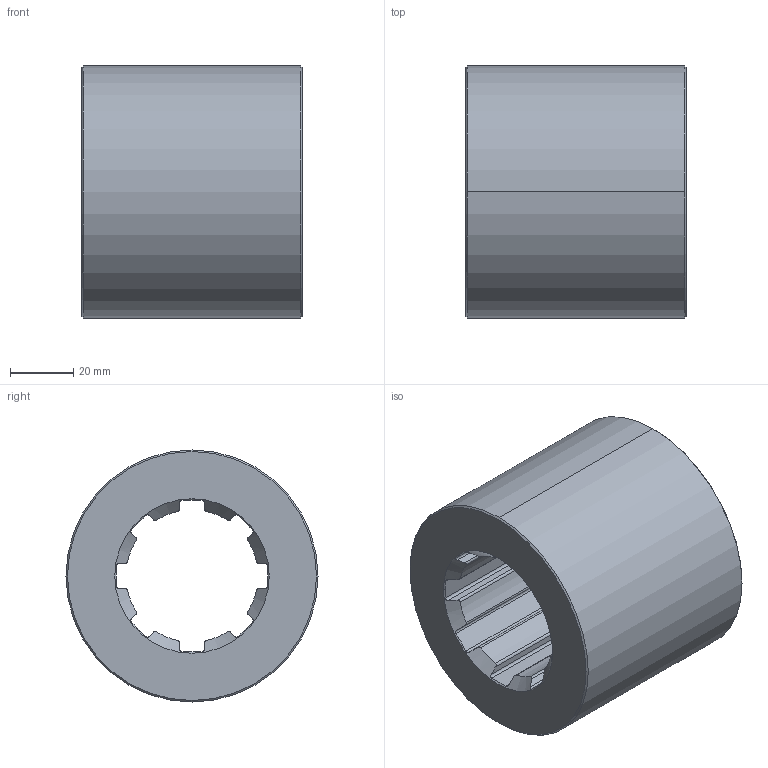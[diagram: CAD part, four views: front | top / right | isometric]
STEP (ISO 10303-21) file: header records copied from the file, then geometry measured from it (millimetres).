
FILE_DESCRIPTION((''),'2;1');
FILE_NAME('395-042-6001_PRT','2024-03-24T',('Brieden'),('ib-brieden'),'PRO/ENGINEER BY PARAMETRIC TECHNOLOGY CORPORATION, 2010160','PRO/ENGINEER BY PARAMETRIC TECHNOLOGY CORPORATION, 2010160','');
FILE_SCHEMA(('AUTOMOTIVE_DESIGN { 1 0 10303 214 1 1 1 1 }'));
Length unit declared in the file: millimetre
Products named in the file (1): 395-042-6001_PRT
Bounding box: 70 x 80 x 80 mm (x, y, z)
Volume: 239943.7 mm3; surface area: 36263.2 mm2
Topology: 1 solids, 1 shells, 76 faces, 218 edges, 144 vertices
Faces by surface type: cylinder 42, plane 26, cone 8
Entity records: 3818 total; most frequent: CARTESIAN_POINT 1304, ORIENTED_EDGE 436, DIRECTION 282, PRESENTATION_STYLE_ASSIGNMENT 219, STYLED_ITEM 219, CURVE_STYLE 218, EDGE_CURVE 218, VERTEX_POINT 144
